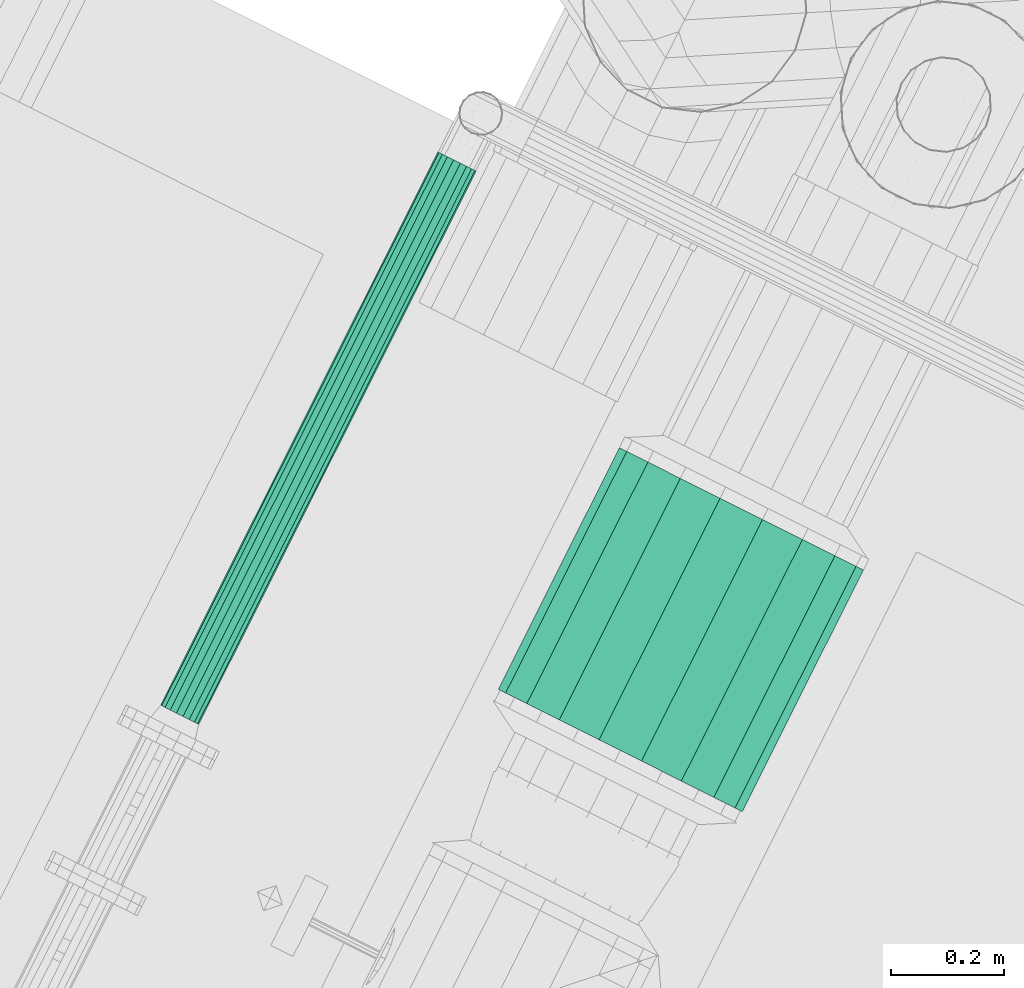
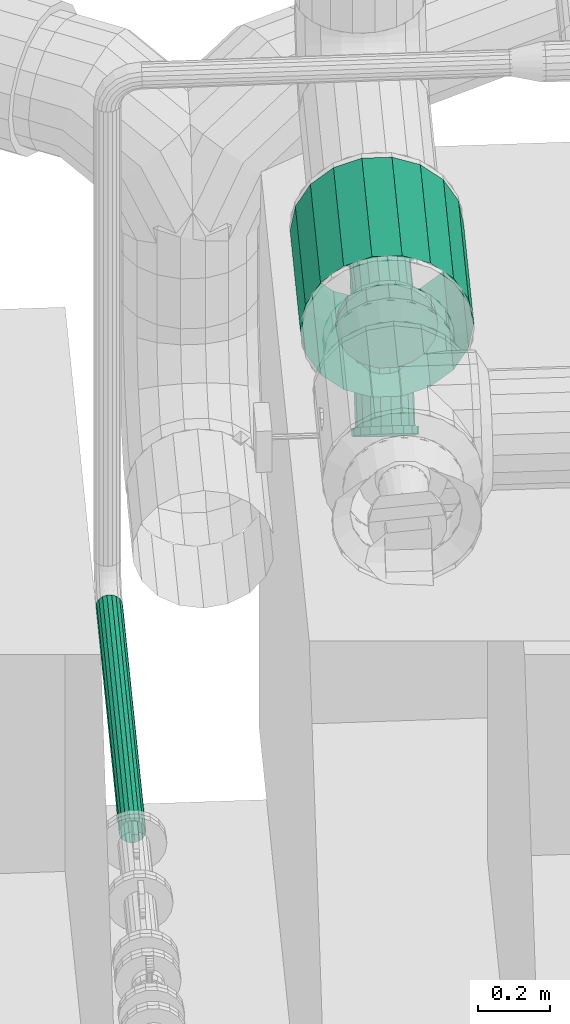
# One storey, part 10 of 206: 1 flow segment, 1 flow treatment device.
"""IFC2X3 building model written with IfcOpenShell, lengths in metres."""

from ifc_helpers import new_model, si_unit, derived_unit, direction, frame, origin, place, context, subcontext, project, spatial, face_set, surface_model, source, transform, mapped, material, type_object, type_shapes, element, save


model = new_model("IFC2X3")

# Units and contexts
model_context = context("Model", 3, precision=5.2338327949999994e-05, world=origin(), true_north=direction((0.0, 1.0)))
body_context = subcontext(model_context, "Body", "Model", "MODEL_VIEW")
ifc_project = project(units=[si_unit("LENGTHUNIT", "METRE"), si_unit("AREAUNIT", "SQUARE_METRE"), si_unit("VOLUMEUNIT", "CUBIC_METRE"), si_unit("MASSUNIT", "GRAM", prefix="KILO"), si_unit("PLANEANGLEUNIT", "RADIAN"), derived_unit("THERMALTRANSMITTANCEUNIT", [(si_unit("MASSUNIT", "GRAM", prefix="KILO"), 1), (si_unit("THERMODYNAMICTEMPERATUREUNIT", "KELVIN"), -1), (si_unit("TIMEUNIT", "SECOND"), -3)])], contexts=[model_context])

# Site, building, storey
site_placement = place(None, frame((0.0, 0.0, 0.0), z_axis=(0.0, 0.0, 1.0), x_axis=(0.8939966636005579, -0.4480736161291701, 0.0)))
site = spatial("IfcSite", under=ifc_project, at=site_placement, Name="Default", CompositionType="ELEMENT")
building_placement = place(site_placement, origin())
building = spatial("IfcBuilding", under=site, at=building_placement, CompositionType="ELEMENT")
storey_placement = place(building_placement, origin())
storey = spatial("IfcBuildingStorey", under=building, at=storey_placement, Name="Erdgeschoss", CompositionType="ELEMENT", Elevation=0.0)

# Flow treatment device
ifc_material_1 = material(Name="IfcSurfaceStyle #1741")
distribution_element_type_1 = type_object("IfcDistributionElementType", Name="Schmutzfänger 319970:Schmutzfänger 319970", material=ifc_material_1)
shared_shape_1 = source(origin(), body_context, "Body", "SurfaceModel", [
    surface_model("IfcFaceBasedSurfaceModel", [(23.08485389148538, 7.32099127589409, 2.1599959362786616), (23.113634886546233, 7.325017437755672, 2.1569065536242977), (23.11363488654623, 7.415576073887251, 2.2749248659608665), (23.084853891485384, 7.4052852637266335, 2.2698499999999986), (23.1389444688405, 7.336610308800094, 2.148011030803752), (23.13894446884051, 7.445207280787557, 2.2895373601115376), (23.157729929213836, 7.354371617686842, 2.13438229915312), (23.15772992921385, 7.4906049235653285, 2.311925), (23.16772546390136, 7.376159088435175, 2.117664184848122), (23.167725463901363, 7.54629337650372, 2.33938750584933), (23.16772546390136, 7.399344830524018, 2.099873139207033), (23.167725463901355, 7.583130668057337, 2.3393875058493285), (23.157729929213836, 7.4211323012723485, 2.0831550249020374), (23.157729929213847, 7.596673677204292, 2.3119250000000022), (23.138944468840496, 7.438893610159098, 2.0695262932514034), (23.138944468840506, 7.607714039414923, 2.289537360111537), (23.113634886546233, 7.450486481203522, 2.0606307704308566), (23.113634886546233, 7.614920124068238, 2.2749248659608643), (23.08485389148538, 7.4545126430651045, 2.0575413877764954), (23.084853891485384, 7.617422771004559, 2.26985), (23.05607289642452, 7.450486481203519, 2.060630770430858), (23.05607289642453, 7.614920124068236, 2.274924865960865), (23.030763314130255, 7.438893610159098, 2.0695262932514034), (23.030763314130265, 7.6077140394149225, 2.289537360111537), (23.011977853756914, 7.42113230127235, 2.0831550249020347), (23.011977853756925, 7.5966736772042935, 2.3119250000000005), (23.001982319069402, 7.399344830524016, 2.099873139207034), (23.001982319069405, 7.583130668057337, 2.3393875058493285), (23.00198231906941, 7.376159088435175, 2.117664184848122), (23.00198231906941, 7.54629337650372, 2.339387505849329), (23.01197785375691, 7.35437161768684, 2.1343822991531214), (23.011977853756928, 7.490604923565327, 2.311925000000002), (23.030763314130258, 7.3366103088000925, 2.1480110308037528), (23.030763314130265, 7.445207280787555, 2.2895373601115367), (23.056072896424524, 7.325017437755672, 2.1569065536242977), (23.05607289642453, 7.415576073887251, 2.2749248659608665), (22.942353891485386, 7.656892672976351, 2.354), (22.950947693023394, 7.656892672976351, 2.305262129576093), (22.950947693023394, 7.634892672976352, 2.305262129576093), (22.942353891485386, 7.634892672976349, 2.354), (22.975692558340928, 7.656892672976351, 2.2624027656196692), (22.975692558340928, 7.634892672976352, 2.262402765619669), (23.01360389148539, 7.656892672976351, 2.2305913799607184), (23.013603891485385, 7.634892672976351, 2.2305913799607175), (23.060109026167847, 7.656892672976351, 2.2136648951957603), (23.060109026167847, 7.634892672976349, 2.2136648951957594), (23.109598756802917, 7.656892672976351, 2.21366489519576), (23.109598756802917, 7.634892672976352, 2.2136648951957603), (23.15610389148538, 7.656892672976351, 2.2305913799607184), (23.15610389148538, 7.634892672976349, 2.2305913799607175), (23.19401522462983, 7.656892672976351, 2.262402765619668), (23.19401522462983, 7.634892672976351, 2.262402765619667), (23.218760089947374, 7.656892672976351, 2.305262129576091), (23.218760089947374, 7.634892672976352, 2.3052621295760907), (23.227353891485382, 7.656892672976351, 2.3540000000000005), (23.227353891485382, 7.634892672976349, 2.3540000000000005), (23.218760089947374, 7.656892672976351, 2.402737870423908), (23.218760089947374, 7.634892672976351, 2.4027378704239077), (23.194015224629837, 7.656892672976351, 2.4455972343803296), (23.194015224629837, 7.634892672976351, 2.4455972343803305), (23.156103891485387, 7.656892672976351, 2.4774086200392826), (23.15610389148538, 7.634892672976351, 2.4774086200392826), (23.109598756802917, 7.656892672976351, 2.4943351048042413), (23.109598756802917, 7.634892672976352, 2.4943351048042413), (23.060109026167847, 7.656892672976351, 2.4943351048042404), (23.060109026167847, 7.634892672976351, 2.49433510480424), (23.013603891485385, 7.656892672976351, 2.4774086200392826), (23.013603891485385, 7.634892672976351, 2.4774086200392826), (22.975692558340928, 7.656892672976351, 2.445597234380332), (22.975692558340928, 7.634892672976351, 2.4455972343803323), (22.950947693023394, 7.656892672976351, 2.402737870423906), (22.950947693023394, 7.634892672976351, 2.402737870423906), (23.084853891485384, 7.656892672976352, 2.3540000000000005), (23.084853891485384, 7.634892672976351, 2.3540000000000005), (23.000703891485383, 7.634892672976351, 2.354000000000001), (23.005778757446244, 7.634892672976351, 2.325219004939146), (23.005778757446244, 7.19889267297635, 2.325219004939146), (23.000703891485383, 7.19889267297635, 2.354000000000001), (23.020391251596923, 7.634892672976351, 2.299909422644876), (23.020391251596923, 7.19889267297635, 2.299909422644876), (23.042778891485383, 7.634892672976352, 2.2811239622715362), (23.042778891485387, 7.198892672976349, 2.2811239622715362), (23.070241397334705, 7.634892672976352, 2.2711284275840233), (23.07024139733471, 7.198892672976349, 2.2711284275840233), (23.09946638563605, 7.634892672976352, 2.271128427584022), (23.099466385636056, 7.198892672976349, 2.2711284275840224), (23.126928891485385, 7.634892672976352, 2.281123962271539), (23.126928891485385, 7.19889267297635, 2.281123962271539), (23.149316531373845, 7.634892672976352, 2.2999094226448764), (23.149316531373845, 7.198892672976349, 2.2999094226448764), (23.16392902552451, 7.634892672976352, 2.325219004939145), (23.16392902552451, 7.198892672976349, 2.325219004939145), (23.16900389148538, 7.634892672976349, 2.3540000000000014), (23.169003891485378, 7.19889267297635, 2.354000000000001), (23.163929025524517, 7.634892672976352, 2.382780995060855), (23.163929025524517, 7.19889267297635, 2.382780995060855), (23.149316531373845, 7.634892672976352, 2.408090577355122), (23.14931653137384, 7.198892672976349, 2.408090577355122), (23.12692889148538, 7.634892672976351, 2.426876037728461), (23.12692889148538, 7.19889267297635, 2.4268760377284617), (23.09946638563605, 7.634892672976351, 2.4368715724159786), (23.099466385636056, 7.19889267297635, 2.436871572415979), (23.070241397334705, 7.634892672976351, 2.4368715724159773), (23.07024139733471, 7.19889267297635, 2.4368715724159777), (23.042778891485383, 7.634892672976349, 2.4268760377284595), (23.042778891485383, 7.198892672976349, 2.42687603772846), (23.020391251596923, 7.634892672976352, 2.408090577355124), (23.020391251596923, 7.198892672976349, 2.408090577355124), (23.005778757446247, 7.634892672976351, 2.3827809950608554), (23.005778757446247, 7.19889267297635, 2.3827809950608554), (22.942353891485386, 7.19889267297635, 2.354), (22.95094769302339, 7.19889267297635, 2.305262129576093), (22.950947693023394, 7.176892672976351, 2.305262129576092), (22.942353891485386, 7.176892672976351, 2.3540000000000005), (22.975692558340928, 7.19889267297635, 2.2624027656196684), (22.975692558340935, 7.176892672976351, 2.262402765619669), (23.01360389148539, 7.19889267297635, 2.2305913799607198), (23.01360389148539, 7.176892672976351, 2.230591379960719), (23.060109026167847, 7.19889267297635, 2.213664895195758), (23.06010902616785, 7.176892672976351, 2.213664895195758), (23.109598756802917, 7.19889267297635, 2.2136648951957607), (23.109598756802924, 7.176892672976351, 2.2136648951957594), (23.15610389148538, 7.19889267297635, 2.2305913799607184), (23.156103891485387, 7.176892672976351, 2.230591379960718), (23.19401522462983, 7.19889267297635, 2.262402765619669), (23.194015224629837, 7.176892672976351, 2.2624027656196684), (23.218760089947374, 7.19889267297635, 2.3052621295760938), (23.218760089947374, 7.17689267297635, 2.305262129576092), (23.227353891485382, 7.19889267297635, 2.354000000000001), (23.227353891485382, 7.17689267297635, 2.354000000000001), (23.218760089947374, 7.19889267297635, 2.402737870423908), (23.218760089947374, 7.176892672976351, 2.4027378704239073), (23.19401522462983, 7.19889267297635, 2.4455972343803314), (23.194015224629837, 7.17689267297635, 2.445597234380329), (23.15610389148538, 7.19889267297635, 2.4774086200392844), (23.15610389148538, 7.176892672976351, 2.4774086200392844), (23.109598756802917, 7.19889267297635, 2.4943351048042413), (23.109598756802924, 7.176892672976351, 2.4943351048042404), (23.060109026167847, 7.19889267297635, 2.49433510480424), (23.06010902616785, 7.176892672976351, 2.4943351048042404), (23.013603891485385, 7.19889267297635, 2.477408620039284), (23.01360389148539, 7.176892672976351, 2.477408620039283), (22.975692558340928, 7.19889267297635, 2.445597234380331), (22.975692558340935, 7.176892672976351, 2.445597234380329), (22.950947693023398, 7.19889267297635, 2.4027378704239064), (22.950947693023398, 7.176892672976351, 2.402737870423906), (23.084853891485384, 7.19889267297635, 2.3540000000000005), (23.084853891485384, 7.176892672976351, 2.3539999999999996), (22.990703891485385, 7.387751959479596, 2.108768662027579), (22.996381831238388, 7.413298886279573, 2.0891658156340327), (22.996381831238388, 7.399906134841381, 2.071712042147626), (22.990703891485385, 7.374359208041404, 2.091314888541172), (23.012730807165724, 7.435764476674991, 2.0719273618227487), (23.012730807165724, 7.4223717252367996, 2.054473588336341), (23.037778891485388, 7.452439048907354, 2.0591325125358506), (23.037778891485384, 7.4390462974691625, 2.0416787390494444), (23.068504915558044, 7.461311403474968, 2.052324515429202), (23.068504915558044, 7.447918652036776, 2.0348707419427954), (23.10120286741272, 7.4613114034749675, 2.052324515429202), (23.10120286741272, 7.447918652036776, 2.0348707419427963), (23.13192889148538, 7.452439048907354, 2.0591325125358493), (23.13192889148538, 7.4390462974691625, 2.0416787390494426), (23.156976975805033, 7.435764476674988, 2.0719273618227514), (23.15697697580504, 7.422371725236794, 2.0544735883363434), (23.173325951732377, 7.4132988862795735, 2.089165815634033), (23.173325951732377, 7.399906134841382, 2.0717120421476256), (23.179003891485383, 7.387751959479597, 2.108768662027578), (23.179003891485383, 7.374359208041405, 2.091314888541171), (23.17332595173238, 7.362205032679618, 2.128371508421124), (23.17332595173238, 7.348812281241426, 2.110917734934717), (23.156976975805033, 7.339739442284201, 2.1456099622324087), (23.156976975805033, 7.32634669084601, 2.128156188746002), (23.13192889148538, 7.323064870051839, 2.158404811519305), (23.131928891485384, 7.309672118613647, 2.1409510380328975), (23.10120286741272, 7.314192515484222, 2.165212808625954), (23.10120286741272, 7.300799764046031, 2.147759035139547), (23.068504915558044, 7.3141925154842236, 2.165212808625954), (23.068504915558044, 7.300799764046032, 2.1477590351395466), (23.03777889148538, 7.323064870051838, 2.158404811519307), (23.037778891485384, 7.309672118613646, 2.140951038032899), (23.012730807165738, 7.339739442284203, 2.1456099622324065), (23.012730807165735, 7.326346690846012, 2.1281561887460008), (22.996381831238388, 7.362205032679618, 2.128371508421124), (22.996381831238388, 7.348812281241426, 2.1109177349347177), (23.084853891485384, 7.387751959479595, 2.10876866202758), (23.084853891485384, 7.374359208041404, 2.0913148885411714), (23.000703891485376, 7.374359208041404, 2.091314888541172), (23.005778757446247, 7.397192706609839, 2.0737941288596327), (23.005778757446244, 7.287813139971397, 1.9312479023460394), (23.000703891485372, 7.264979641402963, 1.9487686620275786), (23.020391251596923, 7.417272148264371, 2.05838663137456), (23.020391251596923, 7.30789258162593, 1.9158404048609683), (23.042778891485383, 7.432175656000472, 2.0469507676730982), (23.042778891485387, 7.32279608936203, 1.9044045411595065), (23.07024139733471, 7.440105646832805, 2.040865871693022), (23.070241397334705, 7.3307260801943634, 1.8983196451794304), (23.09946638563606, 7.440105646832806, 2.04086587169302), (23.099466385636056, 7.330726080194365, 1.898319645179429), (23.126928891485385, 7.432175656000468, 2.046950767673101), (23.126928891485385, 7.322796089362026, 1.9044045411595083), (23.149316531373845, 7.417272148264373, 2.0583866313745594), (23.14931653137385, 7.307892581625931, 1.9158404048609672), (23.16392902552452, 7.397192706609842, 2.0737941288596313), (23.163929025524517, 7.2878131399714, 1.931247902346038), (23.16900389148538, 7.374359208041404, 2.0913148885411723), (23.16900389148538, 7.264979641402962, 1.9487686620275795), (23.163929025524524, 7.351525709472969, 2.1088356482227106), (23.163929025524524, 7.242146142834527, 1.9662894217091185), (23.149316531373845, 7.331446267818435, 2.1242431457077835), (23.149316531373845, 7.222066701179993, 1.9816969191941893), (23.12692889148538, 7.3165427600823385, 2.1356790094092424), (23.12692889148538, 7.207163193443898, 1.99313278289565), (23.099466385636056, 7.308612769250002, 2.1417639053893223), (23.099466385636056, 7.19923320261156, 1.9992176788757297), (23.07024139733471, 7.308612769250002, 2.141763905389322), (23.07024139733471, 7.19923320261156, 1.9992176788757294), (23.042778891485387, 7.316542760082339, 2.135679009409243), (23.042778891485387, 7.207163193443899, 1.9931327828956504), (23.020391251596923, 7.3314462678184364, 2.124243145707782), (23.020391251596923, 7.222066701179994, 1.9816969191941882), (23.005778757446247, 7.351525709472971, 2.108835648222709), (23.005778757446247, 7.242146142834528, 1.9662894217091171), (22.990703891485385, 7.264979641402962, 1.948768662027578), (22.99638183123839, 7.290526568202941, 1.9291658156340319), (22.996381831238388, 7.277133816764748, 1.9117120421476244), (22.990703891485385, 7.251586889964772, 1.9313148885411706), (23.01273080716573, 7.312992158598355, 1.9119273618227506), (23.01273080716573, 7.299599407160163, 1.8944735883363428), (23.037778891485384, 7.329666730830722, 1.8991325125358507), (23.037778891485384, 7.3162739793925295, 1.8816787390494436), (23.068504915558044, 7.3385390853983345, 1.8923245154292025), (23.068504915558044, 7.325146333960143, 1.874870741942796), (23.10120286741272, 7.3385390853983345, 1.8923245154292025), (23.10120286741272, 7.325146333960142, 1.8748707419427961), (23.13192889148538, 7.329666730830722, 1.8991325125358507), (23.13192889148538, 7.3162739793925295, 1.8816787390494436), (23.15697697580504, 7.312992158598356, 1.9119273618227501), (23.15697697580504, 7.299599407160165, 1.8944735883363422), (23.17332595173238, 7.290526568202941, 1.9291658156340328), (23.17332595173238, 7.2771338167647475, 1.9117120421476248), (23.179003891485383, 7.264979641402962, 1.9487686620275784), (23.179003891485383, 7.251586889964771, 1.9313148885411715), (23.17332595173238, 7.239432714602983, 1.9683715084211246), (23.17332595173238, 7.226039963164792, 1.950917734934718), (23.15697697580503, 7.216967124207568, 1.9856099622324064), (23.15697697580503, 7.203574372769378, 1.968156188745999), (23.131928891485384, 7.2002925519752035, 1.9984048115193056), (23.13192889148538, 7.1868998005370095, 1.9809510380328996), (23.101202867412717, 7.191420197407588, 2.0052128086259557), (23.10120286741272, 7.178027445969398, 1.9877590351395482), (23.068504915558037, 7.191420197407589, 2.0052128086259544), (23.068504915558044, 7.178027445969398, 1.9877590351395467), (23.037778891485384, 7.200292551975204, 1.998404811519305), (23.03777889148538, 7.186899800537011, 1.9809510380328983), (23.012730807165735, 7.2169671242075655, 1.9856099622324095), (23.012730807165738, 7.203574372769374, 1.968156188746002), (22.99638183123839, 7.239432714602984, 1.9683715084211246), (22.99638183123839, 7.226039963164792, 1.950917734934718), (23.084853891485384, 7.264979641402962, 1.9487686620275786), (23.084853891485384, 7.251586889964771, 1.931314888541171), (22.84235389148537, 7.656892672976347, 2.354000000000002), (22.85697843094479, 7.656892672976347, 2.271060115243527), (22.856978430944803, 7.176892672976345, 2.2710601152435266), (22.842353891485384, 7.176892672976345, 2.3540000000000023), (22.89908811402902, 7.656892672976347, 2.198124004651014), (22.89908811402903, 7.176892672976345, 2.198124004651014), (22.963603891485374, 7.656892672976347, 2.1439888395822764), (22.96360389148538, 7.176892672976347, 2.143988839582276), (23.04274420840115, 7.6568926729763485, 2.115184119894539), (23.04274420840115, 7.176892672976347, 2.1151841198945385), (23.1269635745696, 7.656892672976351, 2.1151841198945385), (23.12696357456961, 7.17689267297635, 2.115184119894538), (23.20610389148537, 7.656892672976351, 2.143988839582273), (23.206103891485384, 7.176892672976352, 2.143988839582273), (23.270619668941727, 7.656892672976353, 2.198124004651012), (23.270619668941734, 7.176892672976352, 2.1981240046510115), (23.312729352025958, 7.656892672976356, 2.271060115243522), (23.312729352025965, 7.176892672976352, 2.2710601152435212), (23.327353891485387, 7.656892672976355, 2.353999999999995), (23.327353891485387, 7.176892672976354, 2.353999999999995), (23.312729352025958, 7.656892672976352, 2.436939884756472), (23.312729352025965, 7.176892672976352, 2.436939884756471), (23.27061966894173, 7.656892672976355, 2.5098759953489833), (23.270619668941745, 7.176892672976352, 2.509875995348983), (23.206103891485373, 7.656892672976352, 2.564011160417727), (23.206103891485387, 7.176892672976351, 2.5640111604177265), (23.12696357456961, 7.656892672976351, 2.5928158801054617), (23.12696357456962, 7.17689267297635, 2.592815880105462), (23.04274420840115, 7.6568926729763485, 2.592815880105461), (23.042744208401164, 7.17689267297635, 2.592815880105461), (22.963603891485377, 7.656892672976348, 2.564011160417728), (22.963603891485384, 7.176892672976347, 2.564011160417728), (22.899088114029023, 7.656892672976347, 2.509875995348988), (22.899088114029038, 7.176892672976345, 2.509875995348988), (22.8569784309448, 7.656892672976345, 2.4369398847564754), (22.856978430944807, 7.176892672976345, 2.436939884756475)], [face_set([[[0, 1, 2, 3]], [[1, 4, 5, 2]], [[4, 6, 7, 5]], [[6, 8, 9, 7]], [[8, 10, 11, 9]], [[10, 12, 13, 11]], [[12, 14, 15, 13]], [[14, 16, 17, 15]], [[16, 18, 19, 17]], [[18, 20, 21, 19]], [[20, 22, 23, 21]], [[22, 24, 25, 23]], [[24, 26, 27, 25]], [[26, 28, 29, 27]], [[28, 30, 31, 29]], [[30, 32, 33, 31]], [[32, 34, 35, 33]], [[34, 0, 3, 35]], [[36, 37, 38, 39]], [[37, 40, 41, 38]], [[40, 42, 43, 41]], [[42, 44, 45, 43]], [[44, 46, 47, 45]], [[46, 48, 49, 47]], [[48, 50, 51, 49]], [[50, 52, 53, 51]], [[52, 54, 55, 53]], [[54, 56, 57, 55]], [[56, 58, 59, 57]], [[58, 60, 61, 59]], [[60, 62, 63, 61]], [[62, 64, 65, 63]], [[64, 66, 67, 65]], [[66, 68, 69, 67]], [[68, 70, 71, 69]], [[70, 36, 39, 71]], [[72, 37, 36]], [[72, 40, 37]], [[72, 42, 40]], [[72, 44, 42]], [[72, 46, 44]], [[72, 48, 46]], [[72, 50, 48]], [[72, 52, 50]], [[72, 54, 52]], [[72, 56, 54]], [[72, 58, 56]], [[72, 60, 58]], [[72, 62, 60]], [[72, 64, 62]], [[72, 66, 64]], [[72, 68, 66]], [[72, 70, 68]], [[72, 36, 70]], [[73, 71, 39]], [[73, 69, 71]], [[73, 67, 69]], [[73, 65, 67]], [[73, 63, 65]], [[73, 61, 63]], [[73, 59, 61]], [[73, 57, 59]], [[73, 55, 57]], [[73, 53, 55]], [[73, 51, 53]], [[73, 49, 51]], [[73, 47, 49]], [[73, 45, 47]], [[73, 43, 45]], [[73, 41, 43]], [[73, 38, 41]], [[73, 39, 38]], [[74, 75, 76, 77]], [[75, 78, 79, 76]], [[78, 80, 81, 79]], [[80, 82, 83, 81]], [[82, 84, 85, 83]], [[84, 86, 87, 85]], [[86, 88, 89, 87]], [[88, 90, 91, 89]], [[90, 92, 93, 91]], [[92, 94, 95, 93]], [[94, 96, 97, 95]], [[96, 98, 99, 97]], [[98, 100, 101, 99]], [[100, 102, 103, 101]], [[102, 104, 105, 103]], [[104, 106, 107, 105]], [[106, 108, 109, 107]], [[108, 74, 77, 109]], [[110, 111, 112, 113]], [[111, 114, 115, 112]], [[114, 116, 117, 115]], [[116, 118, 119, 117]], [[118, 120, 121, 119]], [[120, 122, 123, 121]], [[122, 124, 125, 123]], [[124, 126, 127, 125]], [[126, 128, 129, 127]], [[128, 130, 131, 129]], [[130, 132, 133, 131]], [[132, 134, 135, 133]], [[134, 136, 137, 135]], [[136, 138, 139, 137]], [[138, 140, 141, 139]], [[140, 142, 143, 141]], [[142, 144, 145, 143]], [[144, 110, 113, 145]], [[146, 111, 110]], [[146, 114, 111]], [[146, 116, 114]], [[146, 118, 116]], [[146, 120, 118]], [[146, 122, 120]], [[146, 124, 122]], [[146, 126, 124]], [[146, 128, 126]], [[146, 130, 128]], [[146, 132, 130]], [[146, 134, 132]], [[146, 136, 134]], [[146, 138, 136]], [[146, 140, 138]], [[146, 142, 140]], [[146, 144, 142]], [[146, 110, 144]], [[147, 145, 113]], [[147, 143, 145]], [[147, 141, 143]], [[147, 139, 141]], [[147, 137, 139]], [[147, 135, 137]], [[147, 133, 135]], [[147, 131, 133]], [[147, 129, 131]], [[147, 127, 129]], [[147, 125, 127]], [[147, 123, 125]], [[147, 121, 123]], [[147, 119, 121]], [[147, 117, 119]], [[147, 115, 117]], [[147, 112, 115]], [[147, 113, 112]], [[148, 149, 150, 151]], [[149, 152, 153, 150]], [[152, 154, 155, 153]], [[154, 156, 157, 155]], [[156, 158, 159, 157]], [[158, 160, 161, 159]], [[160, 162, 163, 161]], [[162, 164, 165, 163]], [[164, 166, 167, 165]], [[166, 168, 169, 167]], [[168, 170, 171, 169]], [[170, 172, 173, 171]], [[172, 174, 175, 173]], [[174, 176, 177, 175]], [[176, 178, 179, 177]], [[178, 180, 181, 179]], [[180, 182, 183, 181]], [[182, 148, 151, 183]], [[184, 149, 148]], [[184, 152, 149]], [[184, 154, 152]], [[184, 156, 154]], [[184, 158, 156]], [[184, 160, 158]], [[184, 162, 160]], [[184, 164, 162]], [[184, 166, 164]], [[184, 168, 166]], [[184, 170, 168]], [[184, 172, 170]], [[184, 174, 172]], [[184, 176, 174]], [[184, 178, 176]], [[184, 180, 178]], [[184, 182, 180]], [[184, 148, 182]], [[185, 183, 151]], [[185, 181, 183]], [[185, 179, 181]], [[185, 177, 179]], [[185, 175, 177]], [[185, 173, 175]], [[185, 171, 173]], [[185, 169, 171]], [[185, 167, 169]], [[185, 165, 167]], [[185, 163, 165]], [[185, 161, 163]], [[185, 159, 161]], [[185, 157, 159]], [[185, 155, 157]], [[185, 153, 155]], [[185, 150, 153]], [[185, 151, 150]], [[186, 187, 188, 189]], [[187, 190, 191, 188]], [[190, 192, 193, 191]], [[192, 194, 195, 193]], [[194, 196, 197, 195]], [[196, 198, 199, 197]], [[198, 200, 201, 199]], [[200, 202, 203, 201]], [[202, 204, 205, 203]], [[204, 206, 207, 205]], [[206, 208, 209, 207]], [[208, 210, 211, 209]], [[210, 212, 213, 211]], [[212, 214, 215, 213]], [[214, 216, 217, 215]], [[216, 218, 219, 217]], [[218, 220, 221, 219]], [[220, 186, 189, 221]], [[222, 223, 224, 225]], [[223, 226, 227, 224]], [[226, 228, 229, 227]], [[228, 230, 231, 229]], [[230, 232, 233, 231]], [[232, 234, 235, 233]], [[234, 236, 237, 235]], [[236, 238, 239, 237]], [[238, 240, 241, 239]], [[240, 242, 243, 241]], [[242, 244, 245, 243]], [[244, 246, 247, 245]], [[246, 248, 249, 247]], [[248, 250, 251, 249]], [[250, 252, 253, 251]], [[252, 254, 255, 253]], [[254, 256, 257, 255]], [[256, 222, 225, 257]], [[258, 223, 222]], [[258, 226, 223]], [[258, 228, 226]], [[258, 230, 228]], [[258, 232, 230]], [[258, 234, 232]], [[258, 236, 234]], [[258, 238, 236]], [[258, 240, 238]], [[258, 242, 240]], [[258, 244, 242]], [[258, 246, 244]], [[258, 248, 246]], [[258, 250, 248]], [[258, 252, 250]], [[258, 254, 252]], [[258, 256, 254]], [[258, 222, 256]], [[259, 257, 225]], [[259, 255, 257]], [[259, 253, 255]], [[259, 251, 253]], [[259, 249, 251]], [[259, 247, 249]], [[259, 245, 247]], [[259, 243, 245]], [[259, 241, 243]], [[259, 239, 241]], [[259, 237, 239]], [[259, 235, 237]], [[259, 233, 235]], [[259, 231, 233]], [[259, 229, 231]], [[259, 227, 229]], [[259, 224, 227]], [[259, 225, 224]], [[260, 261, 262, 263]], [[261, 264, 265, 262]], [[264, 266, 267, 265]], [[266, 268, 269, 267]], [[268, 270, 271, 269]], [[270, 272, 273, 271]], [[272, 274, 275, 273]], [[274, 276, 277, 275]], [[276, 278, 279, 277]], [[278, 280, 281, 279]], [[280, 282, 283, 281]], [[282, 284, 285, 283]], [[284, 286, 287, 285]], [[286, 288, 289, 287]], [[288, 290, 291, 289]], [[290, 292, 293, 291]], [[292, 294, 295, 293]], [[294, 260, 263, 295]]])]),
])
type_shapes(distribution_element_type_1, [shared_shape_1])
flow_treatment_device_placement = place(storey_placement, origin())
element("IfcFlowTreatmentDevice", 1, at=flow_treatment_device_placement, inside=storey, type_object=distribution_element_type_1, material=ifc_material_1, Name="Schmutzfänger", ObjectType="Schmutzfänger", context=body_context, shape_type="MappedRepresentation", body=[
    mapped(shared_shape_1, transform((0.0, 0.0, 0.0), scale=1.0)),
])

# Flow segment
ifc_material_2 = material(Name="IfcSurfaceStyle #352577")
distribution_element_type_2 = type_object("IfcDistributionElementType", Name="Stahlrohr nach DIN 2448 359492:Stahlrohr nach DIN 2448 359492", material=ifc_material_2)
shared_shape_2 = source(origin(), body_context, "Body", "SurfaceModel", [
    surface_model("IfcFaceBasedSurfaceModel", [(22.39481673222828, 7.9821629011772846, 0.8699999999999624), (22.392522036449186, 7.9821629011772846, 0.8830138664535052), (22.392522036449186, 6.8829583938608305, 0.8830138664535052), (22.39481673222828, 6.8829583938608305, 0.8699999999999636), (22.385914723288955, 7.9821629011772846, 0.8944580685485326), (22.385914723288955, 6.8829583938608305, 0.8944580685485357), (22.375791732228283, 7.9821629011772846, 0.9029522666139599), (22.375791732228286, 6.8829583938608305, 0.9029522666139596), (22.36337404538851, 7.9821629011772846, 0.9074719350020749), (22.36337404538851, 6.8829583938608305, 0.9074719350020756), (22.350159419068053, 7.9821629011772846, 0.9074719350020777), (22.350159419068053, 6.8829583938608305, 0.907471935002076), (22.33774173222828, 7.9821629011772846, 0.9029522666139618), (22.33774173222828, 6.8829583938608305, 0.9029522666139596), (22.327618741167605, 7.9821629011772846, 0.8944580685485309), (22.327618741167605, 6.8829583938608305, 0.8944580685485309), (22.321011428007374, 7.9821629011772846, 0.8830138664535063), (22.32101142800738, 6.8829583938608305, 0.8830138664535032), (22.31871673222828, 7.9821629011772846, 0.8699999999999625), (22.318716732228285, 6.8829583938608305, 0.86999999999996), (22.321011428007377, 7.9821629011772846, 0.8569861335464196), (22.32101142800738, 6.8829583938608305, 0.8569861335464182), (22.327618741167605, 7.9821629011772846, 0.84554193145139), (22.32761874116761, 6.8829583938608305, 0.8455419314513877), (22.33774173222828, 7.9821629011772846, 0.8370477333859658), (22.33774173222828, 6.8829583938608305, 0.8370477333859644), (22.350159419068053, 7.9821629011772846, 0.8325280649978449), (22.350159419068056, 6.8829583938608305, 0.8325280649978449), (22.36337404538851, 7.9821629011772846, 0.8325280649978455), (22.363374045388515, 6.8829583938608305, 0.8325280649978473), (22.375791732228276, 7.9821629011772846, 0.8370477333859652), (22.37579173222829, 6.8829583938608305, 0.8370477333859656), (22.385914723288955, 7.9821629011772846, 0.84554193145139), (22.38591472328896, 6.8829583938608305, 0.8455419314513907), (22.392522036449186, 7.9821629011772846, 0.8569861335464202), (22.392522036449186, 6.8829583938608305, 0.8569861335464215)], [face_set([[[0, 1, 2, 3]], [[1, 4, 5, 2]], [[4, 6, 7, 5]], [[6, 8, 9, 7]], [[8, 10, 11, 9]], [[10, 12, 13, 11]], [[12, 14, 15, 13]], [[14, 16, 17, 15]], [[16, 18, 19, 17]], [[18, 20, 21, 19]], [[20, 22, 23, 21]], [[22, 24, 25, 23]], [[24, 26, 27, 25]], [[26, 28, 29, 27]], [[28, 30, 31, 29]], [[30, 32, 33, 31]], [[32, 34, 35, 33]], [[34, 0, 3, 35]]])]),
])
type_shapes(distribution_element_type_2, [shared_shape_2])
flow_segment_placement = place(storey_placement, origin())
element("IfcFlowSegment", 2, at=flow_segment_placement, inside=storey, type_object=distribution_element_type_2, material=ifc_material_2, Name="Stahlrohr nach DIN 2448", ObjectType="Stahlrohr nach DIN 2448", context=body_context, shape_type="MappedRepresentation", body=[
    mapped(shared_shape_2, transform((0.0, 0.0, 0.0), scale=1.0)),
])

save(model, "model.ifc")
